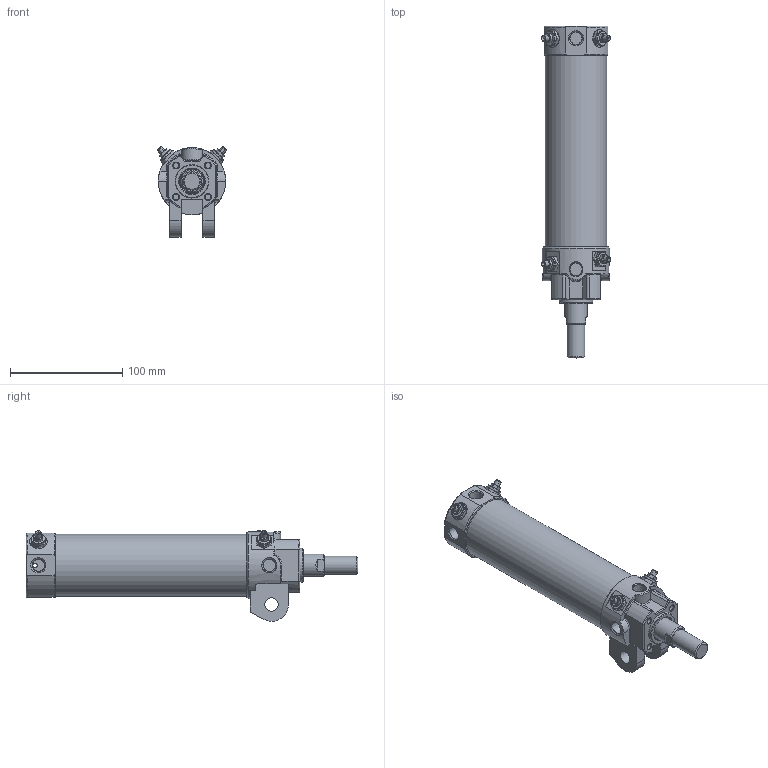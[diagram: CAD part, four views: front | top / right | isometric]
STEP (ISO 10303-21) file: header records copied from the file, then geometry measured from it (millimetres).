
FILE_DESCRIPTION((''),'2;1');
FILE_NAME('I:\3D電子目錄\氣缸\DCK\DCK\DCK-1B-50x125.stp','2008-02-26T14:15:52',('Administrator'),(''),'Autodesk Inventor 11','Autodesk Inventor 11','');
FILE_SCHEMA(('AUTOMOTIVE_DESIGN { 1 0 10303 214 1 1 1 1 }'));
Length unit declared in the file: millimetre
Products named in the file (6): DCK-1B-50; 緩衝針; 緩衝針-1; 緩衝針-201; 緩衝針-3
Assembly tree (8 placements, depth 3):
  DCK-1B-50
    DCK-1B-50
    緩衝針  x4
      緩衝針-1
      緩衝針-201
      緩衝針-3
Bounding box: 61.76 x 296 x 80.87 mm (x, y, z)
Volume: 248330.9 mm3; surface area: 118540.5 mm2
Topology: 15 solids, 15 shells, 570 faces, 1270 edges, 794 vertices
Faces by surface type: plane 213, cylinder 168, cone 133, torus 30, bspline 26
Full cylindrical faces by diameter (mm): 2 x2, 3 x4, 3.8 x2, 4 x6, 4.6 x4, 5 x8, 5.1 x4, 5.2 x12, 5.5 x4, 7.25 x1, 7.9 x4, 8 x2, 10.3 x1, 11.3 x1, 12 x4, 12.8 x4, 16 x2, 20 x1, 21 x1, 22 x2, 23 x1, 24.7 x1, 26 x1, 27 x1, 28 x1, 29 x1, 30 x1, 33 x1, 49.5 x1, 52 x2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
Entity records: 11478 total; most frequent: CARTESIAN_POINT 4706, DIRECTION 1374, ORIENTED_EDGE 1222, EDGE_CURVE 611, AXIS2_PLACEMENT_3D 598, EDGE_LOOP 497, VERTEX_POINT 444, FACE_OUTER_BOUND 321
